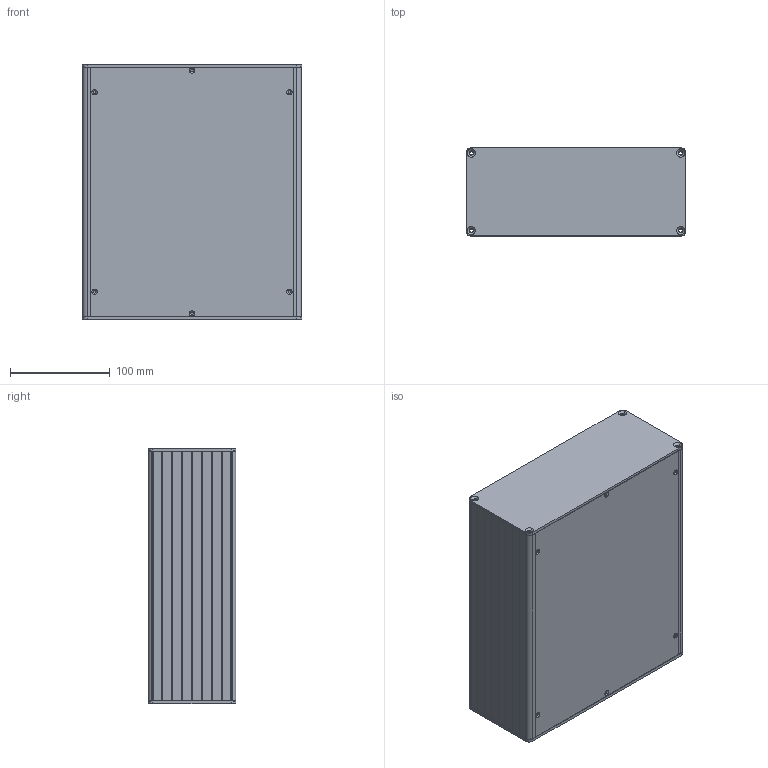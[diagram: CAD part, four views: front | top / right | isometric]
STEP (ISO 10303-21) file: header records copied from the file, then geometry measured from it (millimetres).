
FILE_DESCRIPTION (( 'STEP AP203' ), '1' );
FILE_NAME ('MM-228-25.STEP', '2025-10-14T11:38:19', ( '' ), ( '' ), 'SwSTEP 2.0', 'SolidWorks 2021', '' );
FILE_SCHEMA (( 'CONFIG_CONTROL_DESIGN' ));
Length unit declared in the file: millimetre
Products named in the file (4): MM-228-25; 2U_panel; levha_10 cm; AP-220_10 cm
Assembly tree (6 placements, depth 2):
  MM-228-25
    2U_panel  x2
    AP-220_10 cm  x2
    levha_10 cm  x2
Bounding box: 220 x 88.1 x 256 mm (x, y, z)
Volume: 443324.5 mm3; surface area: 484732.6 mm2
Topology: 6 solids, 6 shells, 904 faces, 2652 edges, 1760 vertices
Faces by surface type: plane 544, cylinder 320, cone 40
Entity records: 15596 total; most frequent: CARTESIAN_POINT 2707, ORIENTED_EDGE 2652, DIRECTION 2588, EDGE_CURVE 1326, LINE 970, VECTOR 970, VERTEX_POINT 880, AXIS2_PLACEMENT_3D 809
